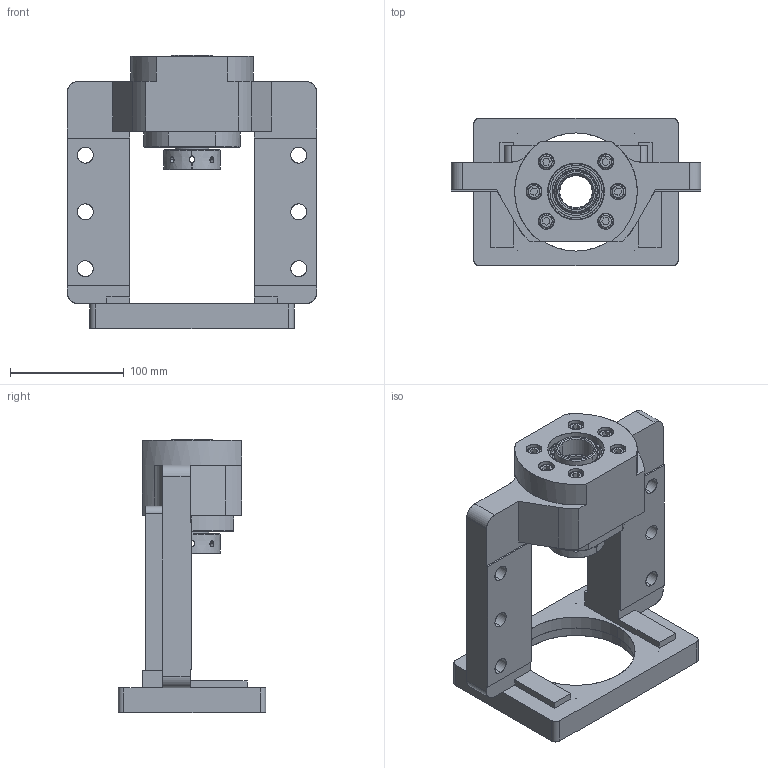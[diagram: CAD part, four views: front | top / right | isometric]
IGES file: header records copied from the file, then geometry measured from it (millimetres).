
Start section: SolidWorks IGES file using analytic representation for surfaces
Bounding box: 220 x 130 x 241 mm (x, y, z)
Surface area: 211076 mm2 (no closed solid volume)
Topology: 0 solids, 0 shells, 342 faces, 6744 edges, 6736 vertices
Faces by surface type: revolution 184, bspline 158
